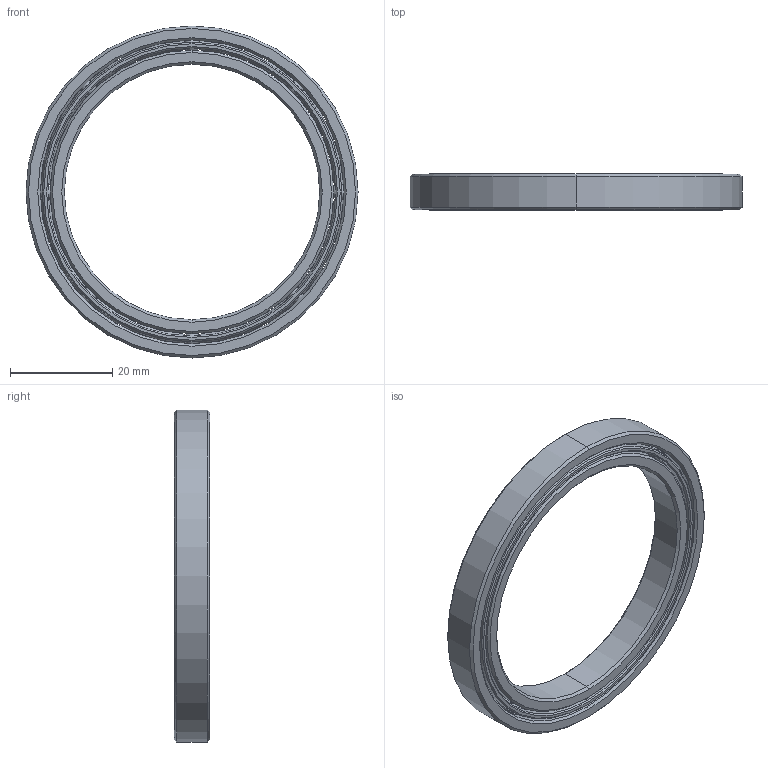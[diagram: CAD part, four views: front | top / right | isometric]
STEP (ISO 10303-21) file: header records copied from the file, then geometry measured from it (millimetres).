
FILE_DESCRIPTION (( 'STEP AP214' ), '1' );
FILE_NAME ('6810 BEARING V3 STYLE.STEP', '2022-02-15T23:33:13', ( '' ), ( '' ), 'SwSTEP 2.0', 'SolidWorks 2019', '' );
FILE_SCHEMA (( 'AUTOMOTIVE_DESIGN' ));
Length unit declared in the file: millimetre
Products named in the file (1): 6810 BEARING V3 STYLE
Bounding box: 65 x 7 x 65 mm (x, y, z)
Volume: 7908.9 mm3; surface area: 10141.1 mm2
Topology: 12 solids, 12 shells, 296 faces, 852 edges, 530 vertices
Faces by surface type: cone 132, sphere 80, cylinder 56, plane 22, torus 6
Entity records: 10867 total; most frequent: CARTESIAN_POINT 2869, ORIENTED_EDGE 1560, DIRECTION 1454, EDGE_CURVE 780, AXIS2_PLACEMENT_3D 683, VERTEX_POINT 506, CIRCLE 386, B_SPLINE_CURVE_WITH_KNOTS 306
